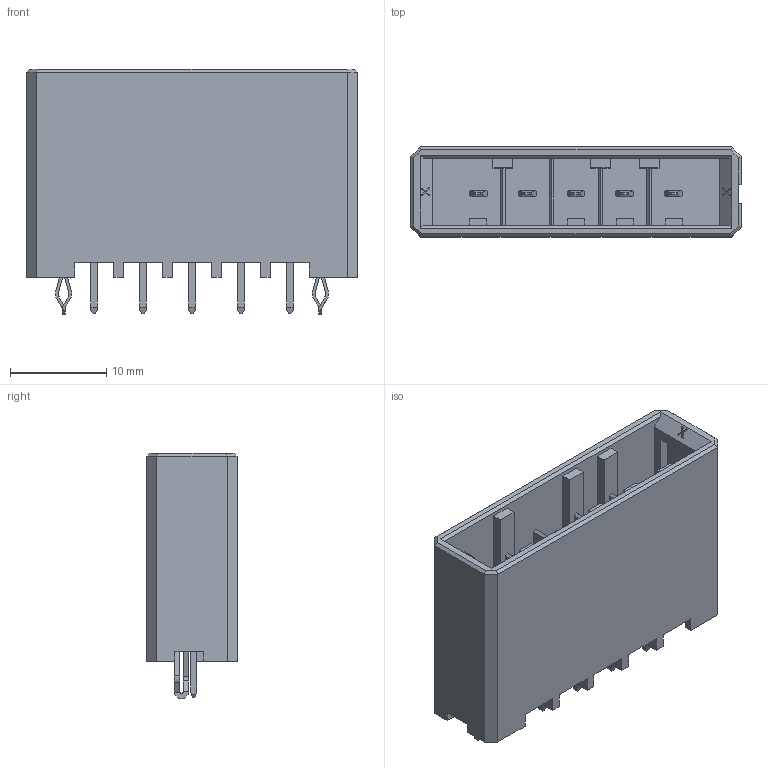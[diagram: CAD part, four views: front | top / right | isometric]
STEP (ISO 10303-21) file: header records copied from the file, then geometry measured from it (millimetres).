
FILE_DESCRIPTION (( 'STEP AP203' ), '1' );
FILE_NAME ('DK-3200S-05V-FA.STEP', '2023-10-13T05:39:20', ( '' ), ( '' ), 'SwSTEP 2.0', 'SolidWorks 2018', '' );
FILE_SCHEMA (( 'CONFIG_CONTROL_DESIGN' ));
Length unit declared in the file: millimetre
Products named in the file (1): DK-3200S-05V-FA
Bounding box: 34.32 x 9.35 x 25.5 mm (x, y, z)
Volume: 3272.8 mm3; surface area: 4900.5 mm2
Topology: 1 solids, 1 shells, 635 faces, 1785 edges, 1184 vertices
Faces by surface type: plane 453, bspline 136, cylinder 46
Entity records: 24110 total; most frequent: CARTESIAN_POINT 8667, ORIENTED_EDGE 3570, DIRECTION 2513, EDGE_CURVE 1785, LINE 1413, VECTOR 1413, VERTEX_POINT 1184, EDGE_LOOP 671
